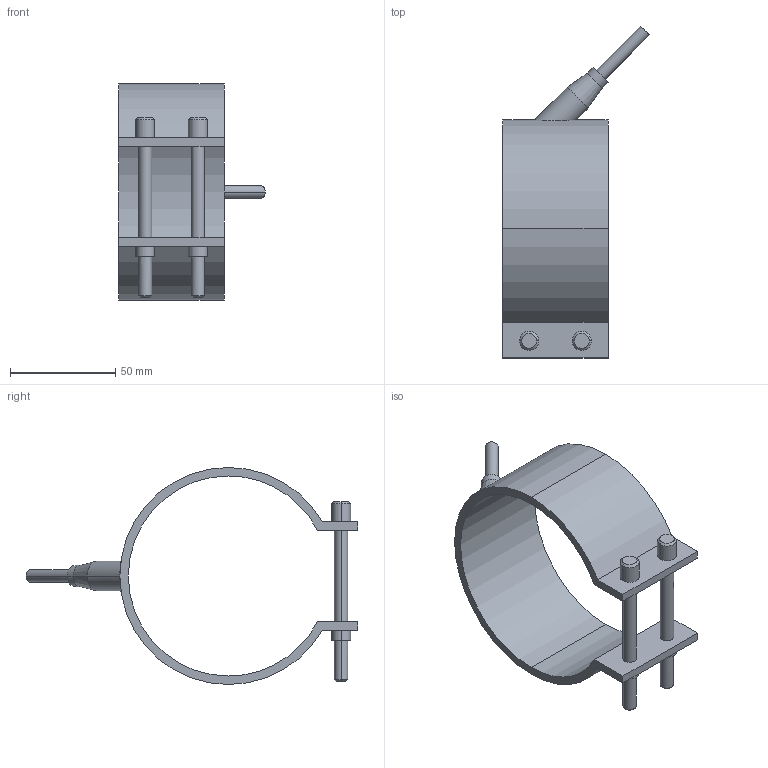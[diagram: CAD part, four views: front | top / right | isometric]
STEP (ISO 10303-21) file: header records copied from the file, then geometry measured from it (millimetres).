
FILE_DESCRIPTION(('CATIA V5 STEP Exchange'),'2;1');
FILE_NAME('C:\Users\Utente\Desktop\IO LAVORO\3D X SITO CF\X SITO\PLASTICA\RF1\29095050.stp','2021-03-29T17:52:21+00:00',('none'),('none'),'CATIA Version 5 Release 20 GA (IN-10)','CATIA V5 STEP AP203','none');
FILE_SCHEMA(('CONFIG_CONTROL_DESIGN'));
Length unit declared in the file: millimetre
Products named in the file (1): 29095050
Bounding box: 69.55 x 157.55 x 103 mm (x, y, z)
Volume: 70084.7 mm3; surface area: 37340.7 mm2
Topology: 1 solids, 1 shells, 54 faces, 123 edges, 79 vertices
Faces by surface type: cylinder 28, plane 16, cone 10
Entity records: 1728 total; most frequent: CARTESIAN_POINT 496, ORIENTED_EDGE 246, DIRECTION 213, EDGE_CURVE 123, AXIS2_PLACEMENT_3D 106, VERTEX_POINT 79, EDGE_LOOP 66, VECTOR 56
